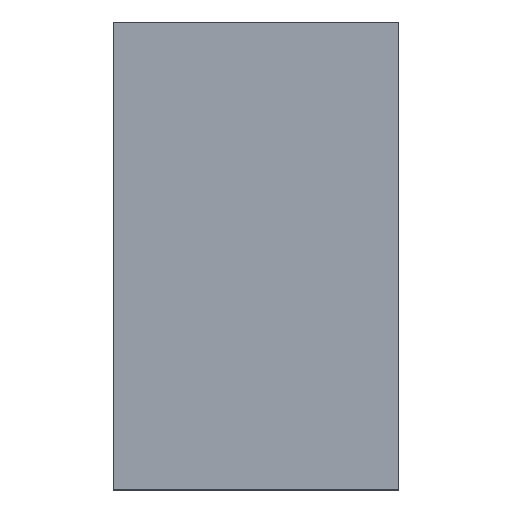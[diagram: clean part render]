
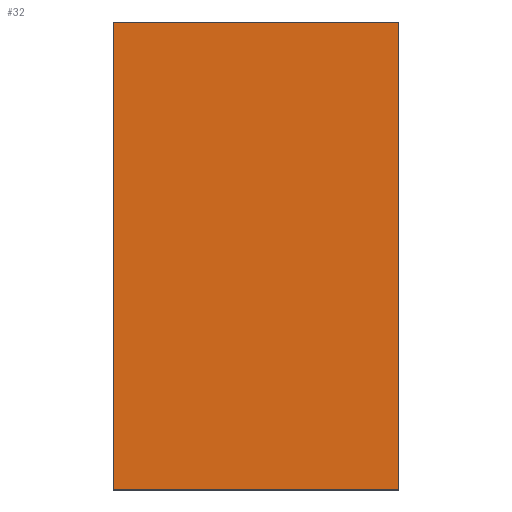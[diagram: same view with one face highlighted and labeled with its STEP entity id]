
A CAD part, top view. The second image highlights one B-rep face of the part: STEP entity #32.
In plain terms, the highlighted planar face has unit normal (0, 0, 1).
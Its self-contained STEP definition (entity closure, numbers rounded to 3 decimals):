
#32=ADVANCED_FACE('',(#50),#254,.T.);
#50=FACE_OUTER_BOUND('',#68,.T.);
#68=EDGE_LOOP('',(#128,#129,#130,#131));
#128=ORIENTED_EDGE('',*,*,#175,.T.);
#129=ORIENTED_EDGE('',*,*,#176,.T.);
#130=ORIENTED_EDGE('',*,*,#177,.F.);
#131=ORIENTED_EDGE('',*,*,#173,.F.);
#173=EDGE_CURVE('',#236,#237,#209,.T.);
#175=EDGE_CURVE('',#236,#238,#211,.T.);
#176=EDGE_CURVE('',#238,#239,#212,.T.);
#177=EDGE_CURVE('',#237,#239,#213,.T.);
#209=B_SPLINE_CURVE_WITH_KNOTS('',1,(#488,#489),.UNSPECIFIED.,.F.,.F.,(2,
2),(0.,480.),.UNSPECIFIED.);
#211=B_SPLINE_CURVE_WITH_KNOTS('',1,(#492,#493),.UNSPECIFIED.,.F.,.F.,(2,
2),(380.,715.),.UNSPECIFIED.);
#212=B_SPLINE_CURVE_WITH_KNOTS('',1,(#494,#495),.UNSPECIFIED.,.F.,.F.,(2,
2),(0.,480.),.UNSPECIFIED.);
#213=B_SPLINE_CURVE_WITH_KNOTS('',1,(#496,#497),.UNSPECIFIED.,.F.,.F.,(2,
2),(380.,715.),.UNSPECIFIED.);
#236=VERTEX_POINT('',#474);
#237=VERTEX_POINT('',#475);
#238=VERTEX_POINT('',#476);
#239=VERTEX_POINT('',#477);
#254=PLANE('',#360);
#360=AXIS2_PLACEMENT_3D('',#466,#381,$);
#381=DIRECTION('',(0.,0.,1.));
#466=CARTESIAN_POINT('',(-426.132,651.576,140.));
#474=CARTESIAN_POINT('',(-426.132,651.576,140.));
#475=CARTESIAN_POINT('',(-426.132,-128.424,140.));
#476=CARTESIAN_POINT('',(-901.132,651.576,140.));
#477=CARTESIAN_POINT('',(-901.132,-128.424,140.));
#488=CARTESIAN_POINT('',(-426.132,651.576,140.));
#489=CARTESIAN_POINT('',(-426.132,-128.424,140.));
#492=CARTESIAN_POINT('',(-426.132,651.576,140.));
#493=CARTESIAN_POINT('',(-901.132,651.576,140.));
#494=CARTESIAN_POINT('',(-901.132,651.576,140.));
#495=CARTESIAN_POINT('',(-901.132,-128.424,140.));
#496=CARTESIAN_POINT('',(-426.132,-128.424,140.));
#497=CARTESIAN_POINT('',(-901.132,-128.424,140.));
